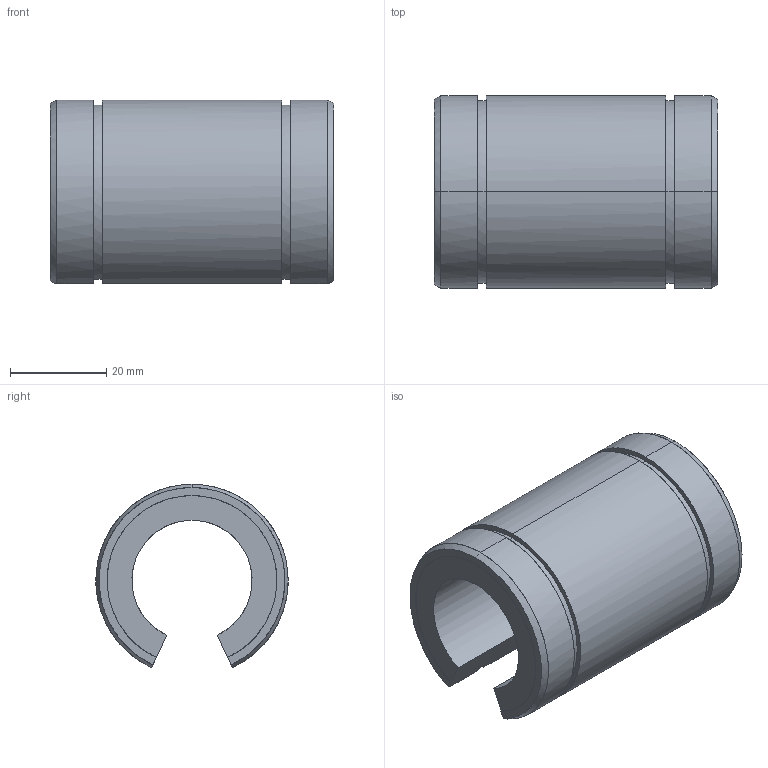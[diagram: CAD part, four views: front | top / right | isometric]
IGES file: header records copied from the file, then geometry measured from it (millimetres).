
Global section: file name: No Iges File Name specified; native system: AutoDesk Inventor R10; preprocessor: AutoDesk Inventor Iges Exporter R10; author: No Author specified; organization: No Organization specified; date: 20101208.113131; units: millimetre
Bounding box: 59 x 40 x 38.14 mm (x, y, z)
Surface area: 12871.8 mm2 (no closed solid volume)
Topology: 0 solids, 0 shells, 30 faces, 256 edges, 256 vertices
Faces by surface type: bspline 30
